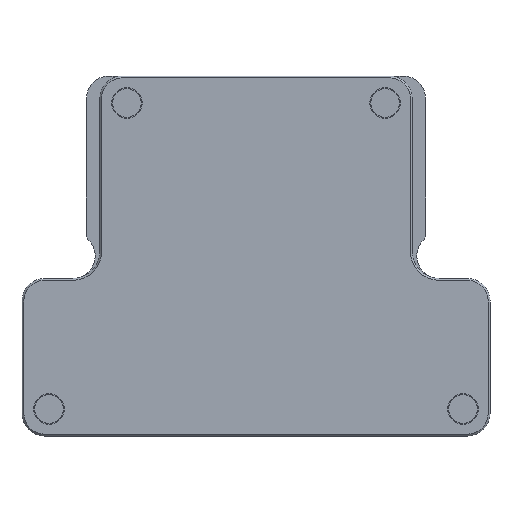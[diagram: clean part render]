
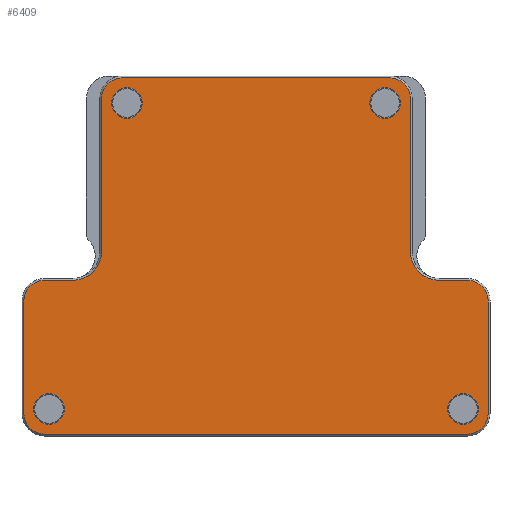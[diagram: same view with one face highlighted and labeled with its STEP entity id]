
A CAD part, front view. The second image highlights one B-rep face of the part: STEP entity #6409.
In plain terms, the highlighted planar face has unit normal (0, -1, 0).
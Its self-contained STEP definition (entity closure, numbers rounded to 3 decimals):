
#4471=LINE('',#15703,#5417);
#4472=LINE('',#15708,#5418);
#4473=LINE('',#15712,#5419);
#4474=LINE('',#15716,#5420);
#4475=LINE('',#15720,#5421);
#4476=LINE('',#15724,#5422);
#4477=LINE('',#15728,#5423);
#4478=LINE('',#15732,#5424);
#5417=VECTOR('',#13464,1.);
#5418=VECTOR('',#13467,1.);
#5419=VECTOR('',#13470,1.);
#5420=VECTOR('',#13473,1.);
#5421=VECTOR('',#13476,1.);
#5422=VECTOR('',#13479,1.);
#5423=VECTOR('',#13482,1.);
#5424=VECTOR('',#13485,1.);
#6409=ADVANCED_FACE('',(#7209,#7210,#7211,#7212,#7213),#6896,.T.);
#6896=PLANE('',#12781);
#7209=FACE_BOUND('',#7305,.T.);
#7210=FACE_BOUND('',#7306,.T.);
#7211=FACE_BOUND('',#7307,.T.);
#7212=FACE_BOUND('',#7308,.T.);
#7213=FACE_BOUND('',#7309,.T.);
#7305=EDGE_LOOP('',(#7916));
#7306=EDGE_LOOP('',(#7917));
#7307=EDGE_LOOP('',(#7918));
#7308=EDGE_LOOP('',(#7919));
#7309=EDGE_LOOP('',(#7920,#7921,#7922,#7923,#7924,#7925,#7926,#7927,#7928,
#7929,#7930,#7931,#7932,#7933,#7934,#7935));
#7916=ORIENTED_EDGE('',*,*,#11336,.T.);
#7917=ORIENTED_EDGE('',*,*,#11337,.T.);
#7918=ORIENTED_EDGE('',*,*,#11338,.T.);
#7919=ORIENTED_EDGE('',*,*,#11339,.T.);
#7920=ORIENTED_EDGE('',*,*,#11340,.T.);
#7921=ORIENTED_EDGE('',*,*,#11341,.T.);
#7922=ORIENTED_EDGE('',*,*,#11342,.T.);
#7923=ORIENTED_EDGE('',*,*,#11343,.T.);
#7924=ORIENTED_EDGE('',*,*,#11344,.T.);
#7925=ORIENTED_EDGE('',*,*,#11345,.T.);
#7926=ORIENTED_EDGE('',*,*,#11346,.T.);
#7927=ORIENTED_EDGE('',*,*,#11347,.T.);
#7928=ORIENTED_EDGE('',*,*,#11348,.T.);
#7929=ORIENTED_EDGE('',*,*,#11349,.T.);
#7930=ORIENTED_EDGE('',*,*,#11350,.T.);
#7931=ORIENTED_EDGE('',*,*,#11351,.T.);
#7932=ORIENTED_EDGE('',*,*,#11352,.T.);
#7933=ORIENTED_EDGE('',*,*,#11353,.T.);
#7934=ORIENTED_EDGE('',*,*,#11354,.T.);
#7935=ORIENTED_EDGE('',*,*,#11355,.T.);
#10480=VERTEX_POINT('',#15696);
#10481=VERTEX_POINT('',#15698);
#10482=VERTEX_POINT('',#15700);
#10483=VERTEX_POINT('',#15702);
#10484=VERTEX_POINT('',#15704);
#10485=VERTEX_POINT('',#15705);
#10486=VERTEX_POINT('',#15707);
#10487=VERTEX_POINT('',#15709);
#10488=VERTEX_POINT('',#15711);
#10489=VERTEX_POINT('',#15713);
#10490=VERTEX_POINT('',#15715);
#10491=VERTEX_POINT('',#15717);
#10492=VERTEX_POINT('',#15719);
#10493=VERTEX_POINT('',#15721);
#10494=VERTEX_POINT('',#15723);
#10495=VERTEX_POINT('',#15725);
#10496=VERTEX_POINT('',#15727);
#10497=VERTEX_POINT('',#15729);
#10498=VERTEX_POINT('',#15731);
#10499=VERTEX_POINT('',#15733);
#11336=EDGE_CURVE('',#10480,#10480,#12574,.T.);
#11337=EDGE_CURVE('',#10481,#10481,#12575,.T.);
#11338=EDGE_CURVE('',#10482,#10482,#12576,.T.);
#11339=EDGE_CURVE('',#10483,#10483,#12577,.T.);
#11340=EDGE_CURVE('',#10484,#10485,#4471,.T.);
#11341=EDGE_CURVE('',#10485,#10486,#12578,.T.);
#11342=EDGE_CURVE('',#10486,#10487,#4472,.T.);
#11343=EDGE_CURVE('',#10487,#10488,#12579,.T.);
#11344=EDGE_CURVE('',#10488,#10489,#4473,.T.);
#11345=EDGE_CURVE('',#10489,#10490,#12580,.T.);
#11346=EDGE_CURVE('',#10490,#10491,#4474,.T.);
#11347=EDGE_CURVE('',#10491,#10492,#12581,.T.);
#11348=EDGE_CURVE('',#10492,#10493,#4475,.T.);
#11349=EDGE_CURVE('',#10493,#10494,#12582,.T.);
#11350=EDGE_CURVE('',#10494,#10495,#4476,.T.);
#11351=EDGE_CURVE('',#10495,#10496,#12583,.T.);
#11352=EDGE_CURVE('',#10496,#10497,#4477,.T.);
#11353=EDGE_CURVE('',#10497,#10498,#12584,.T.);
#11354=EDGE_CURVE('',#10498,#10499,#4478,.T.);
#11355=EDGE_CURVE('',#10499,#10484,#12585,.T.);
#12574=CIRCLE('',#12769,3.4);
#12575=CIRCLE('',#12770,3.4);
#12576=CIRCLE('',#12771,3.4);
#12577=CIRCLE('',#12772,3.4);
#12578=CIRCLE('',#12773,6.4);
#12579=CIRCLE('',#12774,4.6);
#12580=CIRCLE('',#12775,4.6);
#12581=CIRCLE('',#12776,6.4);
#12582=CIRCLE('',#12777,4.6);
#12583=CIRCLE('',#12778,4.6);
#12584=CIRCLE('',#12779,4.6);
#12585=CIRCLE('',#12780,4.6);
#12769=AXIS2_PLACEMENT_3D('',#15695,#13456,#13457);
#12770=AXIS2_PLACEMENT_3D('',#15697,#13458,#13459);
#12771=AXIS2_PLACEMENT_3D('',#15699,#13460,#13461);
#12772=AXIS2_PLACEMENT_3D('',#15701,#13462,#13463);
#12773=AXIS2_PLACEMENT_3D('',#15706,#13465,#13466);
#12774=AXIS2_PLACEMENT_3D('',#15710,#13468,#13469);
#12775=AXIS2_PLACEMENT_3D('',#15714,#13471,#13472);
#12776=AXIS2_PLACEMENT_3D('',#15718,#13474,#13475);
#12777=AXIS2_PLACEMENT_3D('',#15722,#13477,#13478);
#12778=AXIS2_PLACEMENT_3D('',#15726,#13480,#13481);
#12779=AXIS2_PLACEMENT_3D('',#15730,#13483,#13484);
#12780=AXIS2_PLACEMENT_3D('',#15734,#13486,#13487);
#12781=AXIS2_PLACEMENT_3D('',#15735,#13488,#13489);
#13456=DIRECTION('',(0.,1.,0.));
#13457=DIRECTION('',(0.,0.,1.));
#13458=DIRECTION('',(0.,1.,0.));
#13459=DIRECTION('',(0.,0.,1.));
#13460=DIRECTION('',(0.,1.,0.));
#13461=DIRECTION('',(0.,0.,1.));
#13462=DIRECTION('',(0.,1.,0.));
#13463=DIRECTION('',(0.,0.,1.));
#13464=DIRECTION('',(-1.,0.,0.));
#13465=DIRECTION('',(0.,1.,0.));
#13466=DIRECTION('',(0.,0.,-1.));
#13467=DIRECTION('',(0.,0.,1.));
#13468=DIRECTION('',(0.,-1.,0.));
#13469=DIRECTION('',(0.,0.,-1.));
#13470=DIRECTION('',(-1.,0.,0.));
#13471=DIRECTION('',(0.,-1.,0.));
#13472=DIRECTION('',(0.,0.,-1.));
#13473=DIRECTION('',(0.,0.,-1.));
#13474=DIRECTION('',(0.,1.,0.));
#13475=DIRECTION('',(0.,0.,-1.));
#13476=DIRECTION('',(-1.,0.,0.));
#13477=DIRECTION('',(0.,-1.,0.));
#13478=DIRECTION('',(0.,0.,-1.));
#13479=DIRECTION('',(0.,0.,-1.));
#13480=DIRECTION('',(0.,-1.,0.));
#13481=DIRECTION('',(0.,0.,-1.));
#13482=DIRECTION('',(1.,0.,0.));
#13483=DIRECTION('',(0.,-1.,0.));
#13484=DIRECTION('',(0.,0.,-1.));
#13485=DIRECTION('',(0.,0.,1.));
#13486=DIRECTION('',(0.,-1.,0.));
#13487=DIRECTION('',(0.,0.,-1.));
#13488=DIRECTION('',(0.,-1.,0.));
#13489=DIRECTION('',(0.,0.,-1.));
#15695=CARTESIAN_POINT('',(80.7,0.,74.));
#15696=CARTESIAN_POINT('',(80.7,0.,77.4));
#15697=CARTESIAN_POINT('',(23.3,0.,74.));
#15698=CARTESIAN_POINT('',(23.3,0.,77.4));
#15699=CARTESIAN_POINT('',(6.,0.,6.));
#15700=CARTESIAN_POINT('',(6.,0.,9.4));
#15701=CARTESIAN_POINT('',(98.,0.,6.));
#15702=CARTESIAN_POINT('',(98.,0.,9.4));
#15703=CARTESIAN_POINT('',(92.7,0.,34.6));
#15704=CARTESIAN_POINT('',(99.,0.,34.6));
#15705=CARTESIAN_POINT('',(92.7,0.,34.6));
#15706=CARTESIAN_POINT('',(92.7,0.,41.));
#15707=CARTESIAN_POINT('',(86.3,0.,41.));
#15708=CARTESIAN_POINT('',(86.3,0.,0.));
#15709=CARTESIAN_POINT('',(86.3,0.,75.));
#15710=CARTESIAN_POINT('',(81.7,0.,75.));
#15711=CARTESIAN_POINT('',(81.7,0.,79.6));
#15712=CARTESIAN_POINT('',(52.,0.,79.6));
#15713=CARTESIAN_POINT('',(22.3,0.,79.6));
#15714=CARTESIAN_POINT('',(22.3,0.,75.));
#15715=CARTESIAN_POINT('',(17.7,0.,75.));
#15716=CARTESIAN_POINT('',(17.7,0.,41.));
#15717=CARTESIAN_POINT('',(17.7,0.,41.));
#15718=CARTESIAN_POINT('',(11.3,0.,41.));
#15719=CARTESIAN_POINT('',(11.3,0.,34.6));
#15720=CARTESIAN_POINT('',(52.,0.,34.6));
#15721=CARTESIAN_POINT('',(5.,0.,34.6));
#15722=CARTESIAN_POINT('',(5.,0.,30.));
#15723=CARTESIAN_POINT('',(0.4,0.,30.));
#15724=CARTESIAN_POINT('',(0.4,0.,0.));
#15725=CARTESIAN_POINT('',(0.4,0.,5.));
#15726=CARTESIAN_POINT('',(5.,0.,5.));
#15727=CARTESIAN_POINT('',(5.,0.,0.4));
#15728=CARTESIAN_POINT('',(52.,0.,0.4));
#15729=CARTESIAN_POINT('',(99.,0.,0.4));
#15730=CARTESIAN_POINT('',(99.,0.,5.));
#15731=CARTESIAN_POINT('',(103.6,0.,5.));
#15732=CARTESIAN_POINT('',(103.6,0.,0.));
#15733=CARTESIAN_POINT('',(103.6,0.,30.));
#15734=CARTESIAN_POINT('',(99.,0.,30.));
#15735=CARTESIAN_POINT('',(52.,0.,0.));
